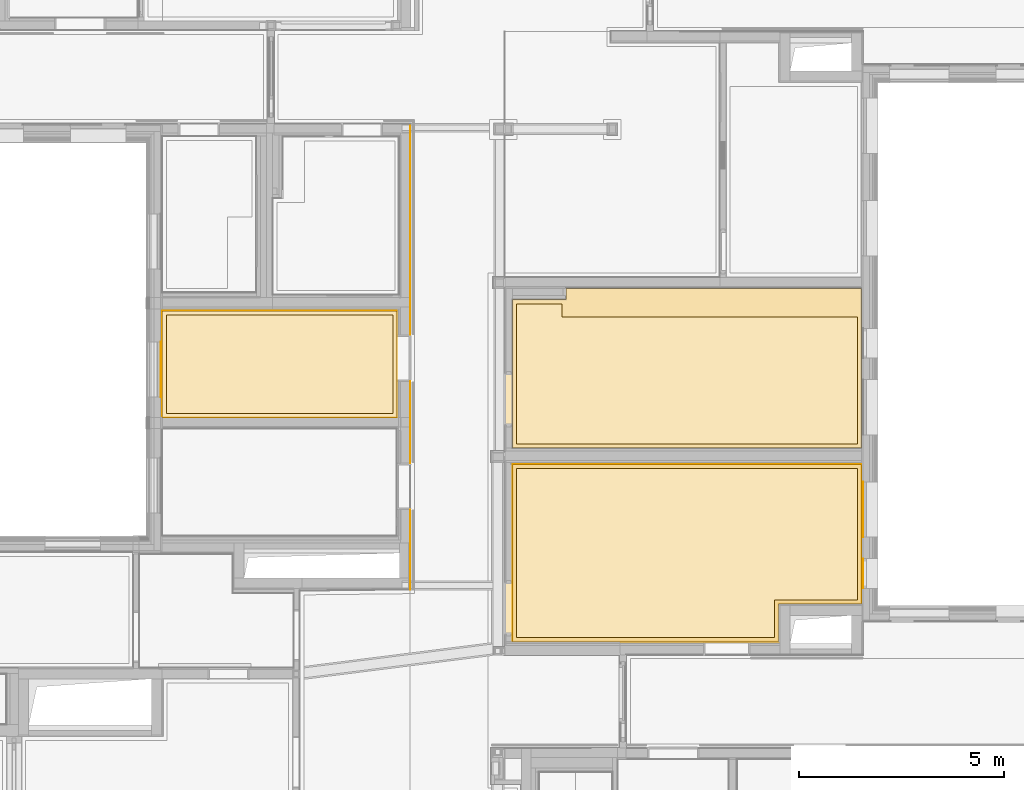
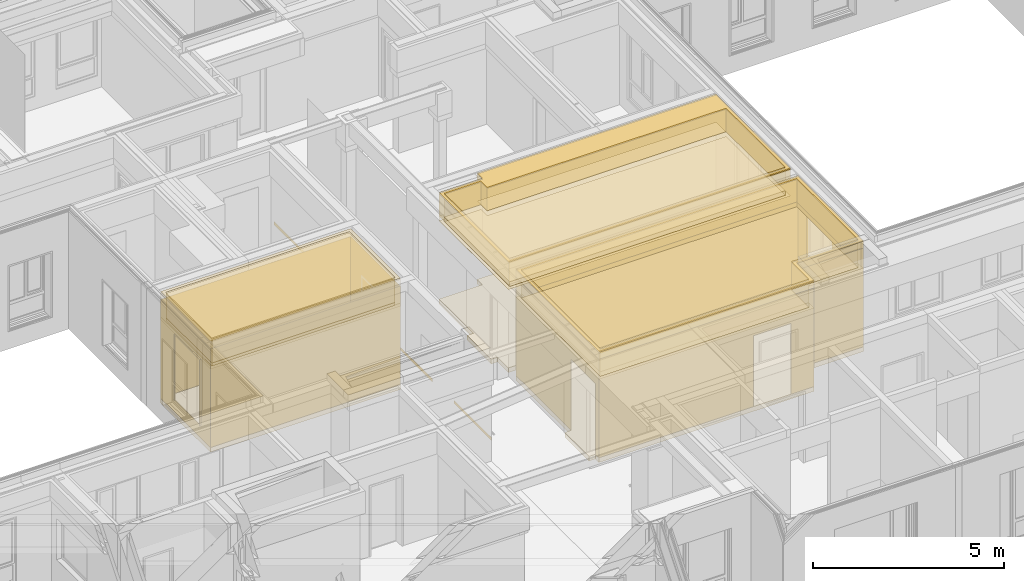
# One storey, part 189 of 222: 30 coverings.
"""IFC4 building model written with IfcOpenShell, lengths in metres."""

from ifc_helpers import new_model, entity, si_unit, converted_unit, derived_unit, frame, frame_2d, origin, origin_with_axes, place, context, subcontext, project, spatial, polyline, rectangle, outline, extrude, material, layer, layer_set, layer_usage, element, save


model = new_model("IFC4")

# Units and contexts
model_context = context("Model", 3, precision=1e-05, world=origin())
body_context = subcontext(model_context, "Body", "Model", "MODEL_VIEW")
ifc_project = project(units=[si_unit("LENGTHUNIT", "METRE"), si_unit("AREAUNIT", "SQUARE_METRE"), si_unit("VOLUMEUNIT", "CUBIC_METRE"), si_unit("MASSUNIT", "GRAM", prefix="KILO"), converted_unit("PLANEANGLEUNIT", "DEGREE", entity("IfcPlaneAngleMeasure", 0.0174532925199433), si_unit("PLANEANGLEUNIT", "RADIAN"), dimensions=[0, 0, 0, 0, 0, 0, 0]), derived_unit("THERMALTRANSMITTANCEUNIT", [(si_unit("POWERUNIT", "WATT"), 1), (si_unit("THERMODYNAMICTEMPERATUREUNIT", "KELVIN"), -1), (si_unit("LENGTHUNIT", "METRE"), -2)]), derived_unit("VOLUMETRICFLOWRATEUNIT", [(si_unit("LENGTHUNIT", "METRE"), 3), (converted_unit("TIMEUNIT", "hour", entity("IfcTimeMeasure", 3600.0), si_unit("TIMEUNIT", "SECOND"), dimensions=[0, 0, 1, 0, 0, 0, 0]), -1), (si_unit("LENGTHUNIT", "METRE"), -1)])], contexts=[model_context])

# Site, building, storey, space
site_placement = place(None, origin())
site = spatial("IfcSite", under=ifc_project, at=site_placement, Name="Psychiatrie Neubau Wunstorf", CompositionType="ELEMENT")
building_placement = place(site_placement, origin())
building = spatial("IfcBuilding", under=site, at=building_placement, Name="Neubau H2 Stationsgebäude", CompositionType="ELEMENT")
storey_placement = place(building_placement, frame((0.0, 0.0, 3.6)))
storey = spatial("IfcBuildingStorey", under=building, at=storey_placement, Name="H2 Ebene +1", CompositionType="ELEMENT", Elevation=3.6)
space_1_placement = place(storey_placement, frame((59.7893138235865, 0.536002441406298, 0.0)))
space_1 = spatial("IfcSpace", under=storey, at=space_1_placement, Name="WUN-H2-E01-F07", CompositionType="ELEMENT")

# Covering
ifc_material_1 = material(Name="97")
ifc_layer_1 = layer(ifc_material_1, 0.001)
ifc_layer_set_1 = layer_set([ifc_layer_1])
ifc_layer_usage_1 = layer_usage(ifc_layer_set_1, "AXIS3", "POSITIVE", 0.0)
covering_1_placement = place(space_1_placement, frame((8.3281861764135, 8.66899761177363, 0.8)))
element("IfcCovering", 1, at=covering_1_placement, inside=space_1, material=ifc_layer_usage_1, Name="Handlauf", PredefinedType="CLADDING", context=body_context, shape_type="SweptSolid", body=[
    extrude(rectangle(XDim=0.1, YDim=5.16099802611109, at=frame_2d((2.58049901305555, 0.05), x_axis=(0.0, 1.0))), frame((0.0, 11.3809979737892, 0.1), z_axis=(1.0, 0.0, 0.0), x_axis=(0.0, -1.0, 0.0)), (0.0, 0.0, 1.0), 0.001),
    extrude(rectangle(XDim=0.1, YDim=0.880503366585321, at=frame_2d((0.44025168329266, 0.05), x_axis=(0.0, 1.0))), frame((0.0, 5.08499994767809, 0.1), z_axis=(1.0, 0.0, 0.0), x_axis=(0.0, -1.0, 0.0)), (0.0, 0.0, 1.0), 0.001),
    extrude(rectangle(XDim=1.95357165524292, YDim=0.1, at=frame_2d((-0.97678582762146, 0.05), x_axis=(-1.0, 0.0))), frame((0.0, 0.0, 0.1), z_axis=(1.0, 0.0, 0.0), x_axis=(0.0, -1.0, 0.0)), (0.0, 0.0, 1.0), 0.001),
    extrude(rectangle(XDim=0.1, YDim=1.11592492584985, at=frame_2d((-0.557962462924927, -0.05), x_axis=(0.0, -1.0))), frame((0.0, 3.08857165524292, 0.0), z_axis=(1.0, 0.0, 0.0), x_axis=(0.0, -1.0, 0.0)), (0.0, 0.0, 1.0), 0.001),
])

# Space
space_2_placement = place(storey_placement, frame((70.6200000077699, 12.661, 0.0)))
space_2 = spatial("IfcSpace", under=storey, at=space_2_placement, Name="WUN-H2-E01-058", CompositionType="ELEMENT")

# Coverings
ifc_material_2 = material()
ifc_layer_2 = layer(ifc_material_2, 0.036)
ifc_layer_set_2 = layer_set([ifc_layer_2])
ifc_layer_usage_2 = layer_usage(ifc_layer_set_2, "AXIS3", "POSITIVE", 0.0)
covering_2_placement = place(space_2_placement, frame((0.0, 0.0, 3.55)))
element("IfcCovering", 2, at=covering_2_placement, inside=space_2, material=ifc_layer_usage_2, Name="Gipsfaserplatten 2-lagig (BSK)", PredefinedType="CEILING", context=body_context, shape_type="SweptSolid", body=[
    extrude(outline(polyline([(8.51899999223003, 3.89949999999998), (0.0, 3.89949999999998), (0.0, 0.275), (1.30999999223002, 0.275000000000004), (1.30999999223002, 0.0), (8.51899999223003, 0.0), (8.51899999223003, 3.89949999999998)]), holes=[polyline([(1.20999999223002, 0.375000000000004), (0.1, 0.375), (0.1, 3.79949999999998), (8.41899999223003, 3.79949999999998), (8.41899999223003, 0.69992492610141), (1.20999999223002, 0.699924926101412), (1.20999999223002, 0.375000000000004)])]), frame((0.0, 3.89949999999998, 0.0), z_axis=(0.0, 0.0, -1.0), x_axis=(1.0, 0.0, 0.0)), (0.0, 0.0, 1.0), 0.036),
])
ifc_material_3 = material(Name="Installationshöhe")
ifc_layer_3 = layer(ifc_material_3, 0.714)
ifc_layer_set_3 = layer_set([ifc_layer_3])
ifc_layer_usage_3 = layer_usage(ifc_layer_set_3, "AXIS3", "POSITIVE", 0.0)
covering_3_placement = place(space_2_placement, frame((0.0, 0.0, 3.514)))
element("IfcCovering", 3, at=covering_3_placement, inside=space_2, material=ifc_layer_usage_3, Name="Gipsfaserplatten 2-lagig (BSK)", PredefinedType="CEILING", context=body_context, shape_type="SweptSolid", body=[
    extrude(outline(polyline([(8.51899999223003, 3.89949999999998), (0.0, 3.89949999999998), (0.0, 0.275), (1.30999999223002, 0.275000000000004), (1.30999999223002, 0.0), (8.51899999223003, 0.0), (8.51899999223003, 3.89949999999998)]), holes=[polyline([(1.20999999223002, 0.375000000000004), (0.1, 0.375), (0.1, 3.79949999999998), (8.41899999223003, 3.79949999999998), (8.41899999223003, 0.69992492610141), (1.20999999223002, 0.699924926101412), (1.20999999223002, 0.375000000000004)])]), frame((0.0, 3.89949999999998, 0.0), z_axis=(0.0, 0.0, -1.0), x_axis=(1.0, 0.0, 0.0)), (0.0, 0.0, 1.0), 0.714),
])
ifc_material_4 = material(Name="A1")
ifc_layer_4 = layer(ifc_material_4, 0.15)
ifc_layer_set_4 = layer_set([ifc_layer_4])
ifc_layer_usage_4 = layer_usage(ifc_layer_set_4, "AXIS3", "POSITIVE", 0.0)
covering_4_placement = place(space_2_placement, frame((0.0, 0.0, 2.8)))
element("IfcCovering", 4, at=covering_4_placement, inside=space_2, material=ifc_layer_usage_4, Name="Gipsfaserplatten 2-lagig (BSK)", PredefinedType="CEILING", context=body_context, shape_type="SweptSolid", body=[
    extrude(outline(polyline([(8.51899999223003, 3.89949999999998), (0.0, 3.89949999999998), (0.0, 0.275), (1.30999999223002, 0.275000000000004), (1.30999999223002, 0.0), (8.51899999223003, 0.0), (8.51899999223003, 3.89949999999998)]), holes=[polyline([(1.20999999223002, 0.375000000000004), (0.1, 0.375), (0.1, 3.79949999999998), (8.41899999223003, 3.79949999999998), (8.41899999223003, 0.69992492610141), (1.20999999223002, 0.699924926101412), (1.20999999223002, 0.375000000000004)])]), frame((0.0, 3.89949999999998, 0.0), z_axis=(0.0, 0.0, -1.0), x_axis=(1.0, 0.0, 0.0)), (0.0, 0.0, 1.0), 0.15),
])
ifc_material_5 = material(Name="D1")
ifc_layer_5 = layer(ifc_material_5, 0.001)
ifc_layer_set_5 = layer_set([ifc_layer_5])
ifc_layer_usage_5 = layer_usage(ifc_layer_set_5, "AXIS3", "POSITIVE", 0.0)
covering_5_placement = place(space_2_placement, frame((0.0, 0.0, 2.65)))
element("IfcCovering", 5, at=covering_5_placement, inside=space_2, material=ifc_layer_usage_5, Name="Gipsfaserplatten 2-lagig (BSK)", PredefinedType="CEILING", context=body_context, shape_type="SweptSolid", body=[
    extrude(outline(polyline([(8.51899999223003, 3.89949999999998), (0.0, 3.89949999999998), (0.0, 0.275), (1.30999999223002, 0.275000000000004), (1.30999999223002, 0.0), (8.51899999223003, 0.0), (8.51899999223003, 3.89949999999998)]), holes=[polyline([(1.20999999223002, 0.375000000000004), (0.1, 0.375), (0.1, 3.79949999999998), (8.41899999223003, 3.79949999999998), (8.41899999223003, 0.69992492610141), (1.20999999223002, 0.699924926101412), (1.20999999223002, 0.375000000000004)])]), frame((0.0, 3.89949999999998, 0.0), z_axis=(0.0, 0.0, -1.0), x_axis=(1.0, 0.0, 0.0)), (0.0, 0.0, 1.0), 0.001),
])
ifc_material_6 = material()
ifc_layer_6 = layer(ifc_material_6, 0.036)
ifc_layer_set_6 = layer_set([ifc_layer_6])
ifc_layer_usage_6 = layer_usage(ifc_layer_set_6, "AXIS3", "POSITIVE", 0.0)
covering_6_placement = place(space_2_placement, frame((0.1, 0.100000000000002, 3.55)))
element("IfcCovering", 6, at=covering_6_placement, inside=space_2, material=ifc_layer_usage_6, Name="Gipsfaserplatten 2-lagig (BSK)", PredefinedType="CEILING", context=body_context, shape_type="SweptSolid", body=[
    extrude(outline(polyline([(1.10999999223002, 0.0), (1.10999999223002, 0.324999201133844), (8.31899999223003, 0.324999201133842), (8.31899999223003, 3.42449999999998), (0.0, 3.42449999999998), (0.0, 0.0), (1.10999999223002, 0.0)])), frame((0.0, 3.42449999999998, 0.0), z_axis=(0.0, 0.0, -1.0), x_axis=(1.0, 0.0, 0.0)), (0.0, 0.0, 1.0), 0.036),
])
ifc_material_7 = material(Name="Installationshöhe")
ifc_layer_7 = layer(ifc_material_7, 0.714)
ifc_layer_set_7 = layer_set([ifc_layer_7])
ifc_layer_usage_7 = layer_usage(ifc_layer_set_7, "AXIS3", "POSITIVE", 0.0)
covering_7_placement = place(space_2_placement, frame((0.1, 0.100000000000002, 3.514)))
element("IfcCovering", 7, at=covering_7_placement, inside=space_2, material=ifc_layer_usage_7, Name="Gipsfaserplatten 2-lagig (BSK)", PredefinedType="CEILING", context=body_context, shape_type="SweptSolid", body=[
    extrude(outline(polyline([(1.10999999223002, 0.0), (1.10999999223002, 0.324999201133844), (8.31899999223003, 0.324999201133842), (8.31899999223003, 3.42449999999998), (0.0, 3.42449999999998), (0.0, 0.0), (1.10999999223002, 0.0)])), frame((0.0, 3.42449999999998, 0.0), z_axis=(0.0, 0.0, -1.0), x_axis=(1.0, 0.0, 0.0)), (0.0, 0.0, 1.0), 0.714),
])
ifc_material_8 = material(Name="Aa")
ifc_layer_8 = layer(ifc_material_8, 0.15)
ifc_layer_set_8 = layer_set([ifc_layer_8])
ifc_layer_usage_8 = layer_usage(ifc_layer_set_8, "AXIS3", "POSITIVE", 0.0)
covering_8_placement = place(space_2_placement, frame((0.1, 0.100000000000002, 2.8)))
element("IfcCovering", 8, at=covering_8_placement, inside=space_2, material=ifc_layer_usage_8, Name="Gipsfaserplatten 2-lagig (BSK)", PredefinedType="CEILING", context=body_context, shape_type="SweptSolid", body=[
    extrude(outline(polyline([(1.10999999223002, 0.0), (1.10999999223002, 0.324999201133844), (8.31899999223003, 0.324999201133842), (8.31899999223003, 3.42449999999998), (0.0, 3.42449999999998), (0.0, 0.0), (1.10999999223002, 0.0)])), frame((0.0, 3.42449999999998, 0.0), z_axis=(0.0, 0.0, -1.0), x_axis=(1.0, 0.0, 0.0)), (0.0, 0.0, 1.0), 0.15),
])
ifc_material_9 = material(Name="D1")
ifc_layer_9 = layer(ifc_material_9, 0.001)
ifc_layer_set_9 = layer_set([ifc_layer_9])
ifc_layer_usage_9 = layer_usage(ifc_layer_set_9, "AXIS3", "POSITIVE", 0.0)
covering_9_placement = place(space_2_placement, frame((0.1, 0.100000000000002, 2.65)))
element("IfcCovering", 9, at=covering_9_placement, inside=space_2, material=ifc_layer_usage_9, Name="Gipsfaserplatten 2-lagig (BSK)", PredefinedType="CEILING", context=body_context, shape_type="SweptSolid", body=[
    extrude(outline(polyline([(1.10999999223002, 0.0), (1.10999999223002, 0.324999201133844), (8.31899999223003, 0.324999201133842), (8.31899999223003, 3.42449999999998), (0.0, 3.42449999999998), (0.0, 0.0), (1.10999999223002, 0.0)])), frame((0.0, 3.42449999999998, 0.0), z_axis=(0.0, 0.0, -1.0), x_axis=(1.0, 0.0, 0.0)), (0.0, 0.0, 1.0), 0.001),
])
ifc_material_10 = material(Name="Ku1")
ifc_layer_10 = layer(ifc_material_10, 0.15)
ifc_layer_set_10 = layer_set([ifc_layer_10])
ifc_layer_usage_10 = layer_usage(ifc_layer_set_10, "AXIS3", "POSITIVE", 0.0)
covering_10_placement = place(space_2_placement, frame((-0.19, 0.0, 0.0)))
element("IfcCovering", 10, at=covering_10_placement, inside=space_2, material=ifc_layer_usage_10, Name="PVC Bahnenware Holzoptik", PredefinedType="FLOORING", context=body_context, shape_type="SweptSolid", body=[
    extrude(rectangle(XDim=0.19, YDim=1.26, at=frame_2d((0.095, 0.63), x_axis=(1.0, 0.0))), frame((0.0, 0.563999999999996, 0.0), z_axis=(0.0, 0.0, 1.0), x_axis=(1.0, 0.0, 0.0)), (0.0, 0.0, 1.0), 0.15),
    extrude(outline(polyline([(1.30999999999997, 3.62449999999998), (0.0, 3.62449999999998), (0.0, 0.0), (8.51899999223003, 0.0), (8.51899999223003, 3.89949999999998), (1.30999999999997, 3.89949999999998), (1.30999999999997, 3.62449999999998)])), frame((0.19, 0.0, 0.0), z_axis=(0.0, 0.0, 1.0), x_axis=(1.0, 0.0, 0.0)), (0.0, 0.0, 1.0), 0.15),
])

# Space
space_3_placement = place(storey_placement, frame((70.619999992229, 7.92950000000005, 0.0)))
space_3 = spatial("IfcSpace", under=storey, at=space_3_placement, Name="WUN-H2-E01-059", CompositionType="ELEMENT")

# Coverings
ifc_material_11 = material()
ifc_layer_11 = layer(ifc_material_11, 0.036)
ifc_layer_set_11 = layer_set([ifc_layer_11])
ifc_layer_usage_11 = layer_usage(ifc_layer_set_11, "AXIS3", "POSITIVE", 0.0)
covering_11_placement = place(space_3_placement, frame((0.0, 0.0, 3.55)))
element("IfcCovering", 11, at=covering_11_placement, inside=space_3, material=ifc_layer_usage_11, Name="Gipsfaserplatten 2-lagig (BSK)", PredefinedType="CEILING", context=body_context, shape_type="SweptSolid", body=[
    extrude(outline(polyline([(8.51900000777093, 0.0), (8.51900000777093, 3.40900036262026), (6.50000037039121, 3.40900036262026), (6.50000037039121, 4.33449999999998), (0.0, 4.33449999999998), (0.0, 0.0), (8.51900000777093, 0.0)]), holes=[polyline([(8.41900000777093, 3.30900036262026), (8.41900000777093, 0.100000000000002), (0.1, 0.1), (0.1, 4.23449999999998), (6.40000037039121, 4.23449999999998), (6.40000037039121, 3.30900036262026), (8.41900000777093, 3.30900036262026)])]), frame((0.0, 4.33449999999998, 0.0), z_axis=(0.0, 0.0, -1.0), x_axis=(1.0, 0.0, 0.0)), (0.0, 0.0, 1.0), 0.036),
])
ifc_material_12 = material(Name="Installationshöhe")
ifc_layer_12 = layer(ifc_material_12, 0.714)
ifc_layer_set_12 = layer_set([ifc_layer_12])
ifc_layer_usage_12 = layer_usage(ifc_layer_set_12, "AXIS3", "POSITIVE", 0.0)
covering_12_placement = place(space_3_placement, frame((0.0, 0.0, 3.514)))
element("IfcCovering", 12, at=covering_12_placement, inside=space_3, material=ifc_layer_usage_12, Name="Gipsfaserplatten 2-lagig (BSK)", PredefinedType="CEILING", context=body_context, shape_type="SweptSolid", body=[
    extrude(outline(polyline([(8.51900000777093, 0.0), (8.51900000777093, 3.40900036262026), (6.50000037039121, 3.40900036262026), (6.50000037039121, 4.33449999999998), (0.0, 4.33449999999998), (0.0, 0.0), (8.51900000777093, 0.0)]), holes=[polyline([(8.41900000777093, 3.30900036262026), (8.41900000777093, 0.100000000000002), (0.1, 0.1), (0.1, 4.23449999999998), (6.40000037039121, 4.23449999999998), (6.40000037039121, 3.30900036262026), (8.41900000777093, 3.30900036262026)])]), frame((0.0, 4.33449999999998, 0.0), z_axis=(0.0, 0.0, -1.0), x_axis=(1.0, 0.0, 0.0)), (0.0, 0.0, 1.0), 0.714),
])
ifc_material_13 = material(Name="A1")
ifc_layer_13 = layer(ifc_material_13, 0.15)
ifc_layer_set_13 = layer_set([ifc_layer_13])
ifc_layer_usage_13 = layer_usage(ifc_layer_set_13, "AXIS3", "POSITIVE", 0.0)
covering_13_placement = place(space_3_placement, frame((0.0, 0.0, 2.8)))
element("IfcCovering", 13, at=covering_13_placement, inside=space_3, material=ifc_layer_usage_13, Name="Gipsfaserplatten 2-lagig (BSK)", PredefinedType="CEILING", context=body_context, shape_type="SweptSolid", body=[
    extrude(outline(polyline([(8.51900000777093, 0.0), (8.51900000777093, 3.40900036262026), (6.50000037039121, 3.40900036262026), (6.50000037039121, 4.33449999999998), (0.0, 4.33449999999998), (0.0, 0.0), (8.51900000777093, 0.0)]), holes=[polyline([(8.41900000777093, 3.30900036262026), (8.41900000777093, 0.100000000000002), (0.1, 0.1), (0.1, 4.23449999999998), (6.40000037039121, 4.23449999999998), (6.40000037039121, 3.30900036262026), (8.41900000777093, 3.30900036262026)])]), frame((0.0, 4.33449999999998, 0.0), z_axis=(0.0, 0.0, -1.0), x_axis=(1.0, 0.0, 0.0)), (0.0, 0.0, 1.0), 0.15),
])
ifc_material_14 = material(Name="D1")
ifc_layer_14 = layer(ifc_material_14, 0.001)
ifc_layer_set_14 = layer_set([ifc_layer_14])
ifc_layer_usage_14 = layer_usage(ifc_layer_set_14, "AXIS3", "POSITIVE", 0.0)
covering_14_placement = place(space_3_placement, frame((0.0, 0.0, 2.65)))
element("IfcCovering", 14, at=covering_14_placement, inside=space_3, material=ifc_layer_usage_14, Name="Gipsfaserplatten 2-lagig (BSK)", PredefinedType="CEILING", context=body_context, shape_type="SweptSolid", body=[
    extrude(outline(polyline([(8.51900000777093, 0.0), (8.51900000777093, 3.40900036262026), (6.50000037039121, 3.40900036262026), (6.50000037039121, 4.33449999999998), (0.0, 4.33449999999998), (0.0, 0.0), (8.51900000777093, 0.0)]), holes=[polyline([(8.41900000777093, 3.30900036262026), (8.41900000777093, 0.100000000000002), (0.1, 0.1), (0.1, 4.23449999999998), (6.40000037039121, 4.23449999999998), (6.40000037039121, 3.30900036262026), (8.41900000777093, 3.30900036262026)])]), frame((0.0, 4.33449999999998, 0.0), z_axis=(0.0, 0.0, -1.0), x_axis=(1.0, 0.0, 0.0)), (0.0, 0.0, 1.0), 0.001),
])
ifc_material_15 = material()
ifc_layer_15 = layer(ifc_material_15, 0.036)
ifc_layer_set_15 = layer_set([ifc_layer_15])
ifc_layer_usage_15 = layer_usage(ifc_layer_set_15, "AXIS3", "POSITIVE", 0.0)
covering_15_placement = place(space_3_placement, frame((0.1, 0.0999999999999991, 3.55)))
element("IfcCovering", 15, at=covering_15_placement, inside=space_3, material=ifc_layer_usage_15, Name="Gipsfaserplatten 2-lagig (BSK)", PredefinedType="CEILING", context=body_context, shape_type="SweptSolid", body=[
    extrude(outline(polyline([(8.31900000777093, 0.0), (8.31900000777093, 3.20900036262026), (6.30000037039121, 3.20900036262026), (6.30000037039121, 4.13449999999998), (0.0, 4.13449999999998), (0.0, 0.0), (8.31900000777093, 0.0)])), frame((0.0, 4.13449999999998, 0.0), z_axis=(0.0, 0.0, -1.0), x_axis=(1.0, 0.0, 0.0)), (0.0, 0.0, 1.0), 0.036),
])
ifc_material_16 = material(Name="Installationshöhe")
ifc_layer_16 = layer(ifc_material_16, 0.714)
ifc_layer_set_16 = layer_set([ifc_layer_16])
ifc_layer_usage_16 = layer_usage(ifc_layer_set_16, "AXIS3", "POSITIVE", 0.0)
covering_16_placement = place(space_3_placement, frame((0.1, 0.0999999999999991, 3.514)))
element("IfcCovering", 16, at=covering_16_placement, inside=space_3, material=ifc_layer_usage_16, Name="Gipsfaserplatten 2-lagig (BSK)", PredefinedType="CEILING", context=body_context, shape_type="SweptSolid", body=[
    extrude(outline(polyline([(8.31900000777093, 0.0), (8.31900000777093, 3.20900036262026), (6.30000037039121, 3.20900036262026), (6.30000037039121, 4.13449999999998), (0.0, 4.13449999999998), (0.0, 0.0), (8.31900000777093, 0.0)])), frame((0.0, 4.13449999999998, 0.0), z_axis=(0.0, 0.0, -1.0), x_axis=(1.0, 0.0, 0.0)), (0.0, 0.0, 1.0), 0.714),
])
ifc_material_17 = material(Name="Aa")
ifc_layer_17 = layer(ifc_material_17, 0.15)
ifc_layer_set_17 = layer_set([ifc_layer_17])
ifc_layer_usage_17 = layer_usage(ifc_layer_set_17, "AXIS3", "POSITIVE", 0.0)
covering_17_placement = place(space_3_placement, frame((0.1, 0.0999999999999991, 2.8)))
element("IfcCovering", 17, at=covering_17_placement, inside=space_3, material=ifc_layer_usage_17, Name="Gipsfaserplatten 2-lagig (BSK)", PredefinedType="CEILING", context=body_context, shape_type="SweptSolid", body=[
    extrude(outline(polyline([(8.31900000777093, 0.0), (8.31900000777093, 3.20900036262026), (6.30000037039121, 3.20900036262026), (6.30000037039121, 4.13449999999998), (0.0, 4.13449999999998), (0.0, 0.0), (8.31900000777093, 0.0)])), frame((0.0, 4.13449999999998, 0.0), z_axis=(0.0, 0.0, -1.0), x_axis=(1.0, 0.0, 0.0)), (0.0, 0.0, 1.0), 0.15),
])
ifc_material_18 = material(Name="D1")
ifc_layer_18 = layer(ifc_material_18, 0.001)
ifc_layer_set_18 = layer_set([ifc_layer_18])
ifc_layer_usage_18 = layer_usage(ifc_layer_set_18, "AXIS3", "POSITIVE", 0.0)
covering_18_placement = place(space_3_placement, frame((0.1, 0.0999999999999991, 2.65)))
element("IfcCovering", 18, at=covering_18_placement, inside=space_3, material=ifc_layer_usage_18, Name="Gipsfaserplatten 2-lagig (BSK)", PredefinedType="CEILING", context=body_context, shape_type="SweptSolid", body=[
    extrude(outline(polyline([(8.31900000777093, 0.0), (8.31900000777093, 3.20900036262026), (6.30000037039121, 3.20900036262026), (6.30000037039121, 4.13449999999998), (0.0, 4.13449999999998), (0.0, 0.0), (8.31900000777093, 0.0)])), frame((0.0, 4.13449999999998, 0.0), z_axis=(0.0, 0.0, -1.0), x_axis=(1.0, 0.0, 0.0)), (0.0, 0.0, 1.0), 0.001),
])
ifc_material_19 = material(Name="Ku1")
ifc_layer_19 = layer(ifc_material_19, 0.15)
ifc_layer_set_19 = layer_set([ifc_layer_19])
ifc_layer_usage_19 = layer_usage(ifc_layer_set_19, "AXIS3", "POSITIVE", 0.0)
covering_19_placement = place(space_3_placement, frame((-0.19, 0.0, 0.0)))
element("IfcCovering", 19, at=covering_19_placement, inside=space_3, material=ifc_layer_usage_19, Name="PVC Bahnenware Holzoptik", PredefinedType="FLOORING", context=body_context, shape_type="SweptSolid", body=[
    extrude(rectangle(XDim=0.19, YDim=1.26, at=frame_2d((0.095, 0.63), x_axis=(1.0, 0.0))), frame((0.0, 0.185504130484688, 0.0), z_axis=(0.0, 0.0, 1.0), x_axis=(1.0, 0.0, 0.0)), (0.0, 0.0, 1.0), 0.15),
    extrude(outline(polyline([(0.0, 0.0), (6.50000037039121, 0.0), (6.50000037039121, 0.925499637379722), (8.51900000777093, 0.925499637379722), (8.51900000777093, 4.33449999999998), (0.0, 4.33449999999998), (0.0, 0.0)])), frame((0.19, 0.0, 0.0), z_axis=(0.0, 0.0, 1.0), x_axis=(1.0, 0.0, 0.0)), (0.0, 0.0, 1.0), 0.15),
])
ifc_material_20 = material(Name="49")
ifc_layer_20 = layer(ifc_material_20, 0.001)
ifc_layer_set_20 = layer_set([ifc_layer_20])
ifc_layer_usage_20 = layer_usage(ifc_layer_set_20, "AXIS3", "POSITIVE", 0.0)
covering_20_placement = place(space_3_placement, frame((0.0, 0.0, 0.15)))
element("IfcCovering", 20, at=covering_20_placement, inside=space_3, material=ifc_layer_usage_20, PredefinedType="CLADDING", context=body_context, shape_type="SweptSolid", body=[
    extrude(rectangle(XDim=8.51900000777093, YDim=3.15, at=frame_2d((4.25950000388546, -1.575), x_axis=(1.0, 0.0))), frame((8.51900000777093, 4.33449999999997, 0.0), z_axis=(-2.1352146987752e-16, -1.0, 0.0), x_axis=(-1.0, 2.1352146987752e-16, 0.0)), (0.0, 0.0, 1.0), 0.001),
    extrude(outline(polyline([(0.0, 3.15), (2.88899586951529, 3.15), (2.88899586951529, 0.89), (4.14899586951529, 0.89), (4.14899586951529, 3.15), (4.33449999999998, 3.15), (4.33449999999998, 0.0), (0.0, 0.0), (0.0, 3.15)])), frame((0.0, 4.33449999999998, 3.15), z_axis=(1.0, 0.0, 0.0), x_axis=(0.0, -1.0, 0.0)), (0.0, 0.0, 1.0), 0.001),
    extrude(outline(polyline([(0.0, 3.15), (4.66500001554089, 3.15), (4.66500001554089, 0.89), (5.80000001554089, 0.89), (5.80000001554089, 3.15), (6.50000037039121, 3.15), (6.50000037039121, 0.0), (0.0, 0.0), (0.0, 3.15)])), frame((0.0, 0.0, 3.15), z_axis=(2.36355293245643e-16, 1.0, 2.66772720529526e-16), x_axis=(1.0, -2.36355293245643e-16, 0.0)), (0.0, 0.0, 1.0), 0.001),
    extrude(rectangle(XDim=0.925499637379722, YDim=3.15, at=frame_2d((0.462749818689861, -1.575), x_axis=(1.0, 0.0))), frame((6.50000037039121, 0.0, 0.0), z_axis=(-1.0, 0.0, 0.0), x_axis=(0.0, 1.0, 0.0)), (0.0, 0.0, 1.0), 0.001),
    extrude(rectangle(XDim=2.01899963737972, YDim=3.15, at=frame_2d((1.00949981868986, -1.575), x_axis=(1.0, 0.0))), frame((6.50000037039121, 0.92549963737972, 0.0), z_axis=(0.0, 1.0, 0.0), x_axis=(1.0, 0.0, 0.0)), (0.0, 0.0, 1.0), 0.001),
    extrude(outline(polyline([(0.0, 3.15), (3.40900036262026, 3.15), (3.40900036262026, 0.0), (0.0, 0.0), (0.0, 3.15)]), holes=[polyline([(2.97841379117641, 2.75), (1.62841379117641, 2.75), (1.62841379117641, 0.635), (2.97841379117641, 0.635), (2.97841379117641, 2.75)]), polyline([(1.10500037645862, 2.75), (0.380000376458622, 2.75), (0.380000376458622, 0.635), (1.10500037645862, 0.635), (1.10500037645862, 2.75)])]), frame((8.51900000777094, 0.92549963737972, 3.15), z_axis=(-1.0, 0.0, 0.0), x_axis=(0.0, 1.0, 0.0)), (0.0, 0.0, 1.0), 0.001),
    extrude(rectangle(XDim=0.05, YDim=1.35, at=frame_2d((0.025, -0.675), x_axis=(1.0, 0.0))), frame((8.51900000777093, 2.55391342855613, 2.515), z_axis=(0.0, 0.0, -1.0), x_axis=(1.0, 0.0, 0.0)), (0.0, 0.0, 1.0), 0.001),
    extrude(rectangle(XDim=0.05, YDim=2.115, at=frame_2d((0.025, -1.0575), x_axis=(1.0, 0.0))), frame((8.51900000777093, 2.55391342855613, 0.4), z_axis=(1.81898940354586e-14, 1.0, -4.30021135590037e-16), x_axis=(1.0, -1.81898940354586e-14, 0.0)), (0.0, 0.0, 1.0), 0.001),
    extrude(rectangle(XDim=2.115, YDim=0.05, at=frame_2d((-0.025, -1.0575), x_axis=(0.0, -1.0))), frame((8.51900000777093, 3.90391342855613, 0.4), z_axis=(1.81898940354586e-14, -1.0, -4.30021135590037e-16), x_axis=(-1.0, -1.81898940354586e-14, 0.0)), (0.0, 0.0, 1.0), 0.001),
    extrude(rectangle(XDim=0.05, YDim=0.725, at=frame_2d((0.025, -0.3625), x_axis=(1.0, 0.0))), frame((8.51900000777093, 1.30550001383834, 2.515), z_axis=(0.0, 0.0, -1.0), x_axis=(1.0, 0.0, 0.0)), (0.0, 0.0, 1.0), 0.001),
    extrude(rectangle(XDim=0.05, YDim=2.115, at=frame_2d((0.025, -1.0575), x_axis=(1.0, 0.0))), frame((8.51900000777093, 1.30550001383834, 0.4), z_axis=(0.0, 1.0, 0.0), x_axis=(1.0, 0.0, 0.0)), (0.0, 0.0, 1.0), 0.001),
    extrude(rectangle(XDim=2.115, YDim=0.05, at=frame_2d((-0.025, -1.0575), x_axis=(0.0, -1.0))), frame((8.51900000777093, 2.03050001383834, 0.4), z_axis=(0.0, -1.0, 0.0), x_axis=(-1.0, 0.0, 0.0)), (0.0, 0.0, 1.0), 0.001),
])

# Space
space_4_placement = place(storey_placement, frame((62.0610000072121, 13.4094966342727, 0.0)))
space_4 = spatial("IfcSpace", under=storey, at=space_4_placement, Name="WUN-H2-E01-066", CompositionType="ELEMENT")

# Coverings
ifc_material_21 = material()
ifc_layer_21 = layer(ifc_material_21, 0.036)
ifc_layer_set_21 = layer_set([ifc_layer_21])
ifc_layer_usage_21 = layer_usage(ifc_layer_set_21, "AXIS3", "POSITIVE", 0.0)
covering_21_placement = place(space_4_placement, frame((0.0, 0.0, 3.55)))
element("IfcCovering", 21, at=covering_21_placement, inside=space_4, material=ifc_layer_usage_21, Name="Gipsfaserplatten 2-lagig (BSK)", PredefinedType="CEILING", context=body_context, shape_type="SweptSolid", body=[
    extrude(outline(polyline([(5.73449999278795, 2.60450336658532), (0.0, 2.60450336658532), (0.0, 0.0), (5.73499999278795, 0.0), (5.73449999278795, 2.60450336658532)])), frame((0.0, 2.60450336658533, 0.0), z_axis=(0.0, 0.0, -1.0), x_axis=(1.0, 0.0, 0.0)), (0.0, 0.0, 1.0), 0.036),
])
ifc_material_22 = material(Name="Installationshöhe")
ifc_layer_22 = layer(ifc_material_22, 0.764)
ifc_layer_set_22 = layer_set([ifc_layer_22])
ifc_layer_usage_22 = layer_usage(ifc_layer_set_22, "AXIS3", "POSITIVE", 0.0)
covering_22_placement = place(space_4_placement, frame((0.0, 0.0, 3.514)))
element("IfcCovering", 22, at=covering_22_placement, inside=space_4, material=ifc_layer_usage_22, Name="Gipsfaserplatten 2-lagig (BSK)", PredefinedType="CEILING", context=body_context, shape_type="SweptSolid", body=[
    extrude(outline(polyline([(5.73449999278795, 2.60450336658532), (0.0, 2.60450336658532), (0.0, 0.0), (5.73499999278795, 0.0), (5.73449999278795, 2.60450336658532)])), frame((0.0, 2.60450336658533, 0.0), z_axis=(0.0, 0.0, -1.0), x_axis=(1.0, 0.0, 0.0)), (0.0, 0.0, 1.0), 0.764),
])
ifc_material_23 = material(Name="H7a")
ifc_layer_23 = layer(ifc_material_23, 0.1)
ifc_layer_set_23 = layer_set([ifc_layer_23])
ifc_layer_usage_23 = layer_usage(ifc_layer_set_23, "AXIS3", "POSITIVE", 0.0)
covering_23_placement = place(space_4_placement, frame((0.0, 0.0, 2.75)))
element("IfcCovering", 23, at=covering_23_placement, inside=space_4, material=ifc_layer_usage_23, Name="Kühldecke glatt", PredefinedType="CEILING", context=body_context, shape_type="SweptSolid", body=[
    extrude(outline(polyline([(5.73449999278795, 2.60450336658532), (0.0, 2.60450336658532), (0.0, 0.0), (5.73499999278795, 0.0), (5.73449999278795, 2.60450336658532)])), frame((0.0, 2.60450336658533, 0.0), z_axis=(0.0, 0.0, -1.0), x_axis=(1.0, 0.0, 0.0)), (0.0, 0.0, 1.0), 0.1),
])
ifc_material_24 = material(Name="D1")
ifc_layer_24 = layer(ifc_material_24, 0.001)
ifc_layer_set_24 = layer_set([ifc_layer_24])
ifc_layer_usage_24 = layer_usage(ifc_layer_set_24, "AXIS3", "POSITIVE", 0.0)
covering_24_placement = place(space_4_placement, frame((0.0, 0.0, 2.65)))
element("IfcCovering", 24, at=covering_24_placement, inside=space_4, material=ifc_layer_usage_24, Name="Gipsfaserplatten 2-lagig (BSK)", PredefinedType="CEILING", context=body_context, shape_type="SweptSolid", body=[
    extrude(outline(polyline([(5.73449999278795, 2.60450336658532), (0.0, 2.60450336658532), (0.0, 0.0), (5.73499999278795, 0.0), (5.73449999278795, 2.60450336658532)])), frame((0.0, 2.60450336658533, 0.0), z_axis=(0.0, 0.0, -1.0), x_axis=(1.0, 0.0, 0.0)), (0.0, 0.0, 1.0), 0.001),
])
ifc_material_25 = material()
ifc_layer_25 = layer(ifc_material_25, 0.036)
ifc_layer_set_25 = layer_set([ifc_layer_25])
ifc_layer_usage_25 = layer_usage(ifc_layer_set_25, "AXIS3", "POSITIVE", 0.0)
covering_25_placement = place(space_4_placement, frame((0.0999999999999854, 0.100000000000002, 3.55)))
element("IfcCovering", 25, at=covering_25_placement, inside=space_4, material=ifc_layer_usage_25, Name="Gipsfaserplatten 2-lagig (BSK)", PredefinedType="CEILING", context=body_context, shape_type="SweptSolid", body=[
    extrude(rectangle(XDim=2.40450336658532, YDim=5.53449999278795, at=frame_2d((2.76724999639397, -1.20225168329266), x_axis=(0.0, -1.0))), frame((0.0, 0.0, 0.0), z_axis=(0.0, 0.0, -1.0), x_axis=(1.0, 0.0, 0.0)), (0.0, 0.0, 1.0), 0.036),
])
ifc_material_26 = material(Name="Installationshöhe")
ifc_layer_26 = layer(ifc_material_26, 0.764)
ifc_layer_set_26 = layer_set([ifc_layer_26])
ifc_layer_usage_26 = layer_usage(ifc_layer_set_26, "AXIS3", "POSITIVE", 0.0)
covering_26_placement = place(space_4_placement, frame((0.0999999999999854, 0.100000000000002, 3.514)))
element("IfcCovering", 26, at=covering_26_placement, inside=space_4, material=ifc_layer_usage_26, Name="Gipsfaserplatten 2-lagig (BSK)", PredefinedType="CEILING", context=body_context, shape_type="SweptSolid", body=[
    extrude(rectangle(XDim=2.40450336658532, YDim=5.53449999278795, at=frame_2d((2.76724999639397, -1.20225168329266), x_axis=(0.0, -1.0))), frame((0.0, 0.0, 0.0), z_axis=(0.0, 0.0, -1.0), x_axis=(1.0, 0.0, 0.0)), (0.0, 0.0, 1.0), 0.764),
])
ifc_material_27 = material(Name="H7b")
ifc_layer_27 = layer(ifc_material_27, 0.1)
ifc_layer_set_27 = layer_set([ifc_layer_27])
ifc_layer_usage_27 = layer_usage(ifc_layer_set_27, "AXIS3", "POSITIVE", 0.0)
covering_27_placement = place(space_4_placement, frame((0.0999999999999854, 0.100000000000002, 2.75)))
element("IfcCovering", 27, at=covering_27_placement, inside=space_4, material=ifc_layer_usage_27, Name="Kühldecke gelocht", PredefinedType="CEILING", context=body_context, shape_type="SweptSolid", body=[
    extrude(rectangle(XDim=2.40450336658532, YDim=5.53449999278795, at=frame_2d((2.76724999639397, -1.20225168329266), x_axis=(0.0, -1.0))), frame((0.0, 0.0, 0.0), z_axis=(0.0, 0.0, -1.0), x_axis=(1.0, 0.0, 0.0)), (0.0, 0.0, 1.0), 0.1),
])
ifc_material_28 = material(Name="D1")
ifc_layer_28 = layer(ifc_material_28, 0.001)
ifc_layer_set_28 = layer_set([ifc_layer_28])
ifc_layer_usage_28 = layer_usage(ifc_layer_set_28, "AXIS3", "POSITIVE", 0.0)
covering_28_placement = place(space_4_placement, frame((0.0999999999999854, 0.100000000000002, 2.65)))
element("IfcCovering", 28, at=covering_28_placement, inside=space_4, material=ifc_layer_usage_28, Name="Gipsfaserplatten 2-lagig (BSK)", PredefinedType="CEILING", context=body_context, shape_type="SweptSolid", body=[
    extrude(rectangle(XDim=2.40450336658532, YDim=5.53449999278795, at=frame_2d((2.76724999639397, -1.20225168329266), x_axis=(0.0, -1.0))), frame((0.0, 0.0, 0.0), z_axis=(0.0, 0.0, -1.0), x_axis=(1.0, 0.0, 0.0)), (0.0, 0.0, 1.0), 0.001),
])
ifc_material_29 = material(Name="Ku1")
ifc_layer_29 = layer(ifc_material_29, 0.15)
ifc_layer_set_29 = layer_set([ifc_layer_29])
ifc_layer_usage_29 = layer_usage(ifc_layer_set_29, "AXIS3", "POSITIVE", 0.0)
covering_29_placement = place(space_4_placement, origin())
element("IfcCovering", 29, at=covering_29_placement, inside=space_4, material=ifc_layer_usage_29, Name="PVC Bahnenware Holzoptik", PredefinedType="FLOORING", context=body_context, shape_type="SweptSolid", body=[
    extrude(outline(polyline([(0.0, 0.0), (5.73449999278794, 0.0), (5.73499999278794, 2.60450336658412), (0.0, 2.60450336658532), (0.0, 0.0)])), origin_with_axes(), (0.0, 0.0, 1.0), 0.15),
])
ifc_material_30 = material(Name="49")
ifc_layer_30 = layer(ifc_material_30, 0.001)
ifc_layer_set_30 = layer_set([ifc_layer_30])
ifc_layer_usage_30 = layer_usage(ifc_layer_set_30, "AXIS3", "POSITIVE", 0.0)
covering_30_placement = place(space_4_placement, frame((-0.04, 0.0, 0.15)))
element("IfcCovering", 30, at=covering_30_placement, inside=space_4, material=ifc_layer_usage_30, PredefinedType="CLADDING", context=body_context, shape_type="SweptSolid", body=[
    extrude(rectangle(XDim=5.73499999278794, YDim=3.15, at=frame_2d((2.86749999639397, -1.575), x_axis=(1.0, 0.0))), frame((5.77499999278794, 2.60450336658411, 0.0), z_axis=(-2.1060313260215e-13, -1.0, 0.0), x_axis=(-1.0, 2.1060313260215e-13, 0.0)), (0.0, 0.0, 1.0), 0.001),
    extrude(outline(polyline([(0.0, 3.15), (2.60450336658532, 3.15), (2.60450336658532, 0.0), (0.0, 0.0), (0.0, 3.15)]), holes=[polyline([(2.10900000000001, 2.75), (0.759000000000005, 2.75), (0.759000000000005, 0.635), (2.10900000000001, 0.635), (2.10900000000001, 2.75)])]), frame((0.0399999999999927, 2.60450336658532, 3.15), z_axis=(1.0, 0.0, 0.0), x_axis=(0.0, -1.0, 0.0)), (0.0, 0.0, 1.0), 0.001),
    extrude(rectangle(XDim=5.73449999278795, YDim=3.15, at=frame_2d((2.86724999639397, -1.575), x_axis=(1.0, 0.0))), frame((0.04, 0.0, 0.0), z_axis=(3.17201047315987e-16, 1.0, 0.0), x_axis=(1.0, -3.17201047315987e-16, 0.0)), (0.0, 0.0, 1.0), 0.001),
    extrude(rectangle(XDim=2.60450341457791, YDim=3.15, at=frame_2d((1.30225170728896, -1.575), x_axis=(1.0, 0.0))), frame((5.77449999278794, 0.0, 0.0), z_axis=(-0.999999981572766, 0.000191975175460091, 0.0), x_axis=(0.000191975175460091, 0.999999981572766, 0.0)), (0.0, 0.0, 1.0), 0.001),
    extrude(rectangle(XDim=1.35, YDim=0.0399999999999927, at=frame_2d((0.0199999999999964, 0.675000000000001), x_axis=(0.0, 1.0))), frame((0.0, 1.84550336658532, 2.515), z_axis=(0.0, 0.0, -1.0), x_axis=(1.0, 0.0, 0.0)), (0.0, 0.0, 1.0), 0.001),
    extrude(rectangle(XDim=2.115, YDim=0.0399999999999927, at=frame_2d((-0.0199999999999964, -1.0575), x_axis=(0.0, -1.0))), frame((0.0, 1.84550336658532, 0.4), z_axis=(0.0, -1.0, 8.60042271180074e-16), x_axis=(-1.0, 0.0, 0.0)), (0.0, 0.0, 1.0), 0.001),
    extrude(rectangle(XDim=2.115, YDim=0.0399999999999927, at=frame_2d((-0.0199999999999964, -1.0575), x_axis=(0.0, -1.0))), frame((0.0399999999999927, 0.495503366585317, 0.4), z_axis=(-4.54747350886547e-14, 1.0, 0.0), x_axis=(1.0, 4.54747350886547e-14, 0.0)), (0.0, 0.0, 1.0), 0.001),
])

save(model, "model.ifc")
